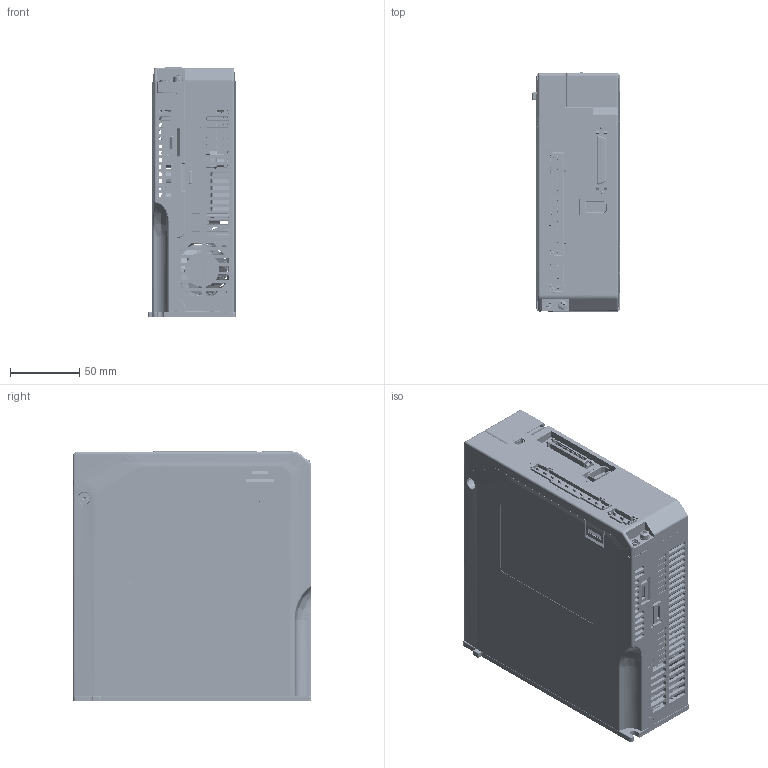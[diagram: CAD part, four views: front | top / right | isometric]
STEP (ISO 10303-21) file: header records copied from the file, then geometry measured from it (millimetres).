
FILE_DESCRIPTION (( 'STEP AP203' ), '1' );
FILE_NAME ('400VAC ,Rated power:1kW~1.5KW CanOPEN.STEP', '2024-09-10T07:15:05', ( '' ), ( '' ), 'SwSTEP 2.0', 'SolidWorks 2022', '' );
FILE_SCHEMA (( 'CONFIG_CONTROL_DESIGN' ));
Products named in the file (1): 400VAC ，Rated power：1kW~1.5KW CanOPEN
Bounding box: 63 x 172.3 x 181 mm (x, y, z)
Surface area: 598195.3 mm2 (no closed solid volume)
Topology: 0 solids, 1041 shells, 16133 faces, 44194 edges, 29552 vertices
Faces by surface type: plane 9628, cylinder 3672, bspline 1971, cone 860, torus 2
Entity records: 567209 total; most frequent: CARTESIAN_POINT 177817, ORIENTED_EDGE 83119, DIRECTION 71803, EDGE_CURVE 43971, LINE 30259, VECTOR 30259, VERTEX_POINT 29554, AXIS2_PLACEMENT_3D 20772
